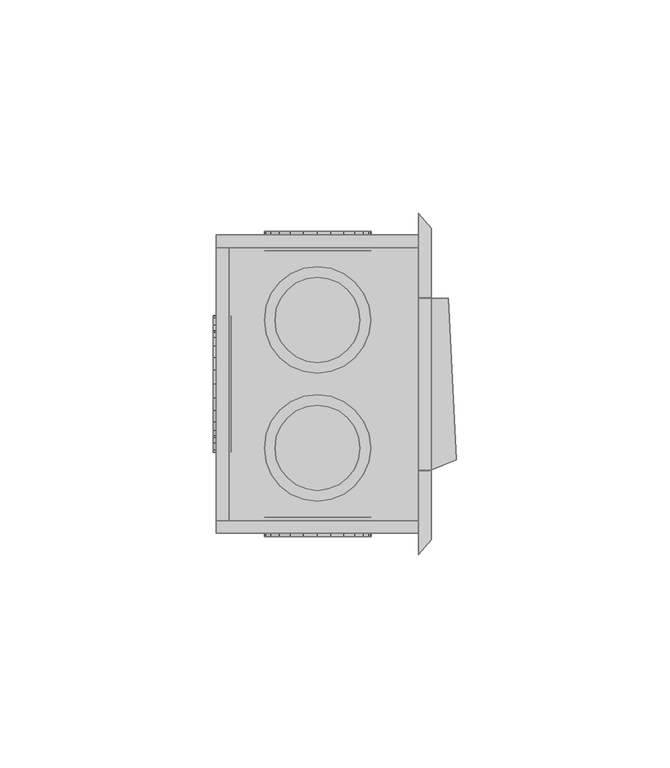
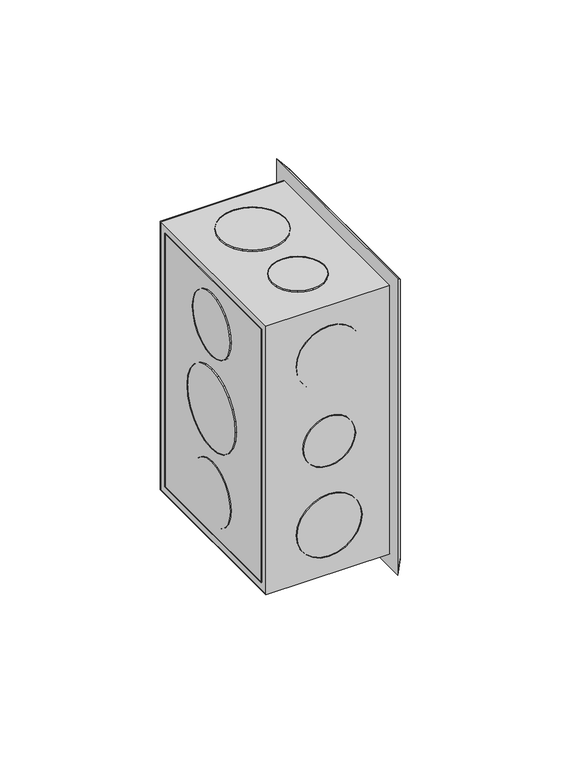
"""IFC4 building model written with IfcOpenShell, lengths in millimetres: proxy geometry,  211037 :  211037."""

from ifc_helpers import new_model, si_unit, origin, place, context, project, spatial, triangles, source, transform, mapped, element, save


def generic_models_7b9690b5(model_context):
    return source(origin(), model_context, "Body", "Tessellation", [
        triangles([(6623.3997849, 13049.5999786, 1254.3000378), (6623.3997849, 13046.6001617, 1148.7000154), (6623.3997849, 13049.5999786, 1145.6999805), (6623.3997849, 13046.6001617, 1251.2999302), (6623.3997849, 12979.5996002, 1254.3000378), (6623.3997849, 12982.6005798, 1251.2999302), (6623.3997849, 12979.5996002, 1145.6999805), (6623.3997849, 12982.6005798, 1148.7000154), (6575.8997772, 13046.6001617, 1251.2999302), (6575.8997772, 13046.6001617, 1148.7000154), (6575.8997772, 12979.5996002, 1254.3000378), (6575.8997772, 12979.5996002, 1145.6999805), (6575.8997772, 12982.6005798, 1251.2999302), (6575.8997772, 13049.5999786, 1145.6999805), (6575.8997772, 12982.6005798, 1148.7000154), (6575.8997772, 13049.5999786, 1254.3000378), (6578.9001755, 13046.6001617, 1251.2999302), (6578.9001755, 12982.6005798, 1148.7000154), (6578.9001755, 13046.6001617, 1148.7000154), (6578.9001755, 12982.6005798, 1251.2999302), (6579.400145, 13028.5001038, 1191.9999887), (6579.400145, 13022.6004639, 1186.0999855), (6579.400145, 13025.9002625, 1188.6999722), (6579.400145, 13030.1000061, 1195.8999687), (6579.400145, 13018.7995331, 1184.5000105), (6579.400145, 13030.5999756, 1200.0000092), (6579.400145, 13014.5997894, 1183.9999683), (6579.400145, 13030.1000061, 1204.0999769), (6579.400145, 13010.5000397, 1184.5000105), (6579.400145, 13028.5001038, 1208.0000296), (6579.400145, 13006.6002777, 1186.0999855), (6579.400145, 13025.9002625, 1211.2999735), (6579.400145, 13003.3004791, 1188.6999722), (6579.400145, 13022.6004639, 1213.9000328), (6579.400145, 13000.799469, 1191.9999887), (6579.400145, 13018.7995331, 1215.5000078), (6579.400145, 12999.1995667, 1195.8999687), (6579.400145, 13014.5997894, 1215.9999773), (6579.400145, 12998.5996033, 1200.0000092), (6579.400145, 13010.5000397, 1215.5000078), (6579.400145, 12999.1995667, 1204.0999769), (6579.400145, 13006.6002777, 1213.9000328), (6579.400145, 13000.799469, 1208.0000296), (6579.400145, 13003.3004791, 1211.2999735), (6575.1998199, 13010.5000397, 1184.5000105), (6575.1998199, 13014.5997894, 1183.9999683), (6575.1998199, 13018.7995331, 1184.5000105), (6575.1998199, 13022.6004639, 1186.0999855), (6575.1998199, 13025.9002625, 1188.6999722), (6575.1998199, 13028.5001038, 1191.9999887), (6575.1998199, 13030.1000061, 1195.8999687), (6575.1998199, 13030.5999756, 1200.0000092), (6575.1998199, 13030.1000061, 1204.0999769), (6575.1998199, 13028.5001038, 1208.0000296), (6575.1998199, 13025.9002625, 1211.2999735), (6575.1998199, 13022.6004639, 1213.9000328), (6575.1998199, 13018.7995331, 1215.5000078), (6575.1998199, 13014.5997894, 1215.9999773), (6575.1998199, 13010.5000397, 1215.5000078), (6575.1998199, 13006.6002777, 1213.9000328), (6575.1998199, 13003.3004791, 1211.2999735), (6575.1998199, 13000.799469, 1208.0000296), (6575.1998199, 12999.1995667, 1204.0999769), (6575.1998199, 12998.5996033, 1200.0000092), (6575.1998199, 12999.1995667, 1195.8999687), (6575.1998199, 13000.799469, 1191.9999887), (6575.1998199, 13003.3004791, 1188.6999722), (6575.1998199, 13006.6002777, 1186.0999855), (6579.400145, 13025.5002869, 1227.8000565), (6579.400145, 13020.9005676, 1223.2000465), (6579.400145, 13023.5004089, 1225.2000698), (6579.400145, 13026.7002136, 1230.8000187), (6579.400145, 13017.899588, 1221.8999805), (6579.400145, 13027.1001892, 1233.9999687), (6579.400145, 13014.5997894, 1221.500005), (6579.400145, 13026.7002136, 1237.2000641), (6579.400145, 13011.3999847, 1221.8999805), (6579.400145, 13025.5002869, 1240.3000202), (6579.400145, 13008.4001678, 1223.2000465), (6579.400145, 13023.5004089, 1242.800013), (6579.400145, 13005.8003265, 1225.2000698), (6579.400145, 13003.8004486, 1227.8000565), (6579.400145, 13020.9005676, 1244.8000362), (6579.400145, 13017.899588, 1246.0999569), (6579.400145, 13002.6005219, 1230.8000187), (6579.400145, 13014.5997894, 1246.4999325), (6579.400145, 13002.1005524, 1233.9999687), (6579.400145, 13011.3999847, 1246.0999569), (6579.400145, 13002.6005219, 1237.2000641), (6579.400145, 13003.8004486, 1240.3000202), (6579.400145, 13008.4001678, 1244.8000362), (6579.400145, 13005.8003265, 1242.800013), (6575.1998199, 13002.6005219, 1230.8000187), (6575.1998199, 13003.8004486, 1227.8000565), (6575.1998199, 13005.8003265, 1225.2000698), (6575.1998199, 13008.4001678, 1223.2000465), (6575.1998199, 13011.3999847, 1221.8999805), (6575.1998199, 13014.5997894, 1221.500005), (6575.1998199, 13017.899588, 1221.8999805), (6575.1998199, 13020.9005676, 1223.2000465), (6575.1998199, 13023.5004089, 1225.2000698), (6575.1998199, 13025.5002869, 1227.8000565), (6575.1998199, 13026.7002136, 1230.8000187), (6575.1998199, 13027.1001892, 1233.9999687), (6575.1998199, 13026.7002136, 1237.2000641), (6575.1998199, 13025.5002869, 1240.3000202), (6575.1998199, 13023.5004089, 1242.800013), (6575.1998199, 13020.9005676, 1244.8000362), (6575.1998199, 13017.899588, 1246.0999569), (6575.1998199, 13014.5997894, 1246.4999325), (6575.1998199, 13011.3999847, 1246.0999569), (6575.1998199, 13008.4001678, 1244.8000362), (6575.1998199, 13005.8003265, 1242.800013), (6575.1998199, 13003.8004486, 1240.3000202), (6575.1998199, 13002.6005219, 1237.2000641), (6575.1998199, 13002.1005524, 1233.9999687), (6575.1998199, 13020.9005676, 1155.1999821), (6575.1998199, 13025.5002869, 1159.6999981), (6575.1998199, 13023.5004089, 1157.2000053), (6575.1998199, 13017.899588, 1153.8999887), (6575.1998199, 13026.7002136, 1162.8000269), (6575.1998199, 13014.5997894, 1153.5000132), (6575.1998199, 13027.1001892, 1165.9999769), (6575.1998199, 13011.3999847, 1153.8999887), (6575.1998199, 13026.7002136, 1169.1999996), (6575.1998199, 13008.4001678, 1155.1999821), (6575.1998199, 13025.5002869, 1172.2000345), (6575.1998199, 13005.8003265, 1157.2000053), (6575.1998199, 13023.5004089, 1174.8000212), (6575.1998199, 13003.8004486, 1159.6999981), (6575.1998199, 13020.9005676, 1176.7999718), (6575.1998199, 13002.6005219, 1162.8000269), (6575.1998199, 13017.899588, 1178.0999651), (6575.1998199, 13014.5997894, 1178.5000134), (6575.1998199, 13002.1005524, 1165.9999769), (6575.1998199, 13002.6005219, 1169.1999996), (6575.1998199, 13011.3999847, 1178.0999651), (6575.1998199, 13003.8004486, 1172.2000345), (6575.1998199, 13008.4001678, 1176.7999718), (6575.1998199, 13005.8003265, 1174.8000212), (6579.400145, 13017.899588, 1178.0999651), (6579.400145, 13014.5997894, 1178.5000134), (6579.400145, 13020.9005676, 1176.7999718), (6579.400145, 13023.5004089, 1174.8000212), (6579.400145, 13025.5002869, 1172.2000345), (6579.400145, 13026.7002136, 1169.1999996), (6579.400145, 13027.1001892, 1165.9999769), (6579.400145, 13026.7002136, 1162.8000269), (6579.400145, 13025.5002869, 1159.6999981), (6579.400145, 13023.5004089, 1157.2000053), (6579.400145, 13020.9005676, 1155.1999821), (6579.400145, 13017.899588, 1153.8999887), (6579.400145, 13014.5997894, 1153.5000132), (6579.400145, 13011.3999847, 1153.8999887), (6579.400145, 13008.4001678, 1155.1999821), (6579.400145, 13005.8003265, 1157.2000053), (6579.400145, 13003.8004486, 1159.6999981), (6579.400145, 13002.6005219, 1162.8000269), (6579.400145, 13002.1005524, 1165.9999769), (6579.400145, 13002.6005219, 1169.1999996), (6579.400145, 13003.8004486, 1172.2000345), (6579.400145, 13005.8003265, 1174.8000212), (6579.400145, 13008.4001678, 1176.7999718), (6579.400145, 13011.3999847, 1178.0999651), (6594.6997925, 13045.8002106, 1191.3000315), (6591.0000183, 13045.8002106, 1195.0000237), (6592.5999207, 13045.8002106, 1192.9000065), (6590.0000793, 13045.8002106, 1197.4000225), (6597.1002274, 13045.8002106, 1190.3000198), (6589.7000977, 13045.8002106, 1200.0000092), (6599.7000687, 13045.8002106, 1189.9999655), (6602.1999161, 13045.8002106, 1190.3000198), (6590.0000793, 13045.8002106, 1202.5999958), (6591.0000183, 13045.8002106, 1204.9999947), (6604.6997635, 13045.8002106, 1191.3000315), (6592.5999207, 13045.8002106, 1207.1000118), (6606.7002228, 13045.8002106, 1192.9000065), (6608.3001251, 13045.8002106, 1195.0000237), (6594.6997925, 13045.8002106, 1208.6999868), (6609.3000641, 13045.8002106, 1197.4000225), (6597.1002274, 13045.8002106, 1209.6999985), (6609.7000397, 13045.8002106, 1200.0000092), (6599.7000687, 13045.8002106, 1209.9999802), (6609.3000641, 13045.8002106, 1202.5999958), (6602.1999161, 13045.8002106, 1209.6999985), (6604.6997635, 13045.8002106, 1208.6999868), (6608.3001251, 13045.8002106, 1204.9999947), (6606.7002228, 13045.8002106, 1207.1000118), (6599.7000687, 13050.3999298, 1189.9999655), (6597.1002274, 13050.3999298, 1190.3000198), (6602.1999161, 13050.3999298, 1190.3000198), (6604.6997635, 13050.3999298, 1191.3000315), (6606.7002228, 13050.3999298, 1192.9000065), (6608.3001251, 13050.3999298, 1195.0000237), (6609.3000641, 13050.3999298, 1197.4000225), (6609.7000397, 13050.3999298, 1200.0000092), (6609.3000641, 13050.3999298, 1202.5999958), (6608.3001251, 13050.3999298, 1204.9999947), (6606.7002228, 13050.3999298, 1207.1000118), (6604.6997635, 13050.3999298, 1208.6999868), (6602.1999161, 13050.3999298, 1209.6999985), (6599.7000687, 13050.3999298, 1209.9999802), (6597.1002274, 13050.3999298, 1209.6999985), (6594.6997925, 13050.3999298, 1208.6999868), (6592.5999207, 13050.3999298, 1207.1000118), (6591.0000183, 13050.3999298, 1204.9999947), (6590.0000793, 13050.3999298, 1202.5999958), (6589.7000977, 13050.3999298, 1200.0000092), (6590.0000793, 13050.3999298, 1197.4000225), (6591.0000183, 13050.3999298, 1195.0000237), (6592.5999207, 13050.3999298, 1192.9000065), (6594.6997925, 13050.3999298, 1191.3000315), (6593.3998718, 13045.8002106, 1223.2000465), (6588.8001526, 13045.8002106, 1227.8000565), (6590.8000305, 13045.8002106, 1225.2000698), (6596.4002701, 13045.8002106, 1221.8999805), (6587.6002258, 13045.8002106, 1230.8000187), (6587.2002502, 13045.8002106, 1233.9999687), (6599.7000687, 13045.8002106, 1221.500005), (6602.8998734, 13045.8002106, 1221.8999805), (6587.6002258, 13045.8002106, 1237.2000641), (6588.8001526, 13045.8002106, 1240.3000202), (6605.9002716, 13045.8002106, 1223.2000465), (6608.5001129, 13045.8002106, 1225.2000698), (6590.8000305, 13045.8002106, 1242.800013), (6610.4999908, 13045.8002106, 1227.8000565), (6593.3998718, 13045.8002106, 1244.8000362), (6611.6999176, 13045.8002106, 1230.8000187), (6596.4002701, 13045.8002106, 1246.0999569), (6612.1998871, 13045.8002106, 1233.9999687), (6599.7000687, 13045.8002106, 1246.4999325), (6611.6999176, 13045.8002106, 1237.2000641), (6602.8998734, 13045.8002106, 1246.0999569), (6610.4999908, 13045.8002106, 1240.3000202), (6605.9002716, 13045.8002106, 1244.8000362), (6608.5001129, 13045.8002106, 1242.800013), (6599.7000687, 13050.3999298, 1221.500005), (6596.4002701, 13050.3999298, 1221.8999805), (6602.8998734, 13050.3999298, 1221.8999805), (6605.9002716, 13050.3999298, 1223.2000465), (6608.5001129, 13050.3999298, 1225.2000698), (6610.4999908, 13050.3999298, 1227.8000565), (6611.6999176, 13050.3999298, 1230.8000187), (6612.1998871, 13050.3999298, 1233.9999687), (6611.6999176, 13050.3999298, 1237.2000641), (6610.4999908, 13050.3999298, 1240.3000202), (6608.5001129, 13050.3999298, 1242.800013), (6605.9002716, 13050.3999298, 1244.8000362), (6602.8998734, 13050.3999298, 1246.0999569), (6599.7000687, 13050.3999298, 1246.4999325), (6596.4002701, 13050.3999298, 1246.0999569), (6593.3998718, 13050.3999298, 1244.8000362), (6590.8000305, 13050.3999298, 1242.800013), (6588.8001526, 13050.3999298, 1240.3000202), (6587.6002258, 13050.3999298, 1237.2000641), (6587.2002502, 13050.3999298, 1233.9999687), (6587.6002258, 13050.3999298, 1230.8000187), (6588.8001526, 13050.3999298, 1227.8000565), (6590.8000305, 13050.3999298, 1225.2000698), (6593.3998718, 13050.3999298, 1223.2000465), (6588.8001526, 13050.3999298, 1159.6999981), (6593.3998718, 13050.3999298, 1155.1999821), (6590.8000305, 13050.3999298, 1157.2000053), (6587.6002258, 13050.3999298, 1162.8000269), (6596.4002701, 13050.3999298, 1153.8999887), (6587.2002502, 13050.3999298, 1165.9999769), (6599.7000687, 13050.3999298, 1153.5000132), (6587.6002258, 13050.3999298, 1169.1999996), (6602.8998734, 13050.3999298, 1153.8999887), (6588.8001526, 13050.3999298, 1172.2000345), (6605.9002716, 13050.3999298, 1155.1999821), (6590.8000305, 13050.3999298, 1174.8000212), (6608.5001129, 13050.3999298, 1157.2000053), (6593.3998718, 13050.3999298, 1176.7999718), (6610.4999908, 13050.3999298, 1159.6999981), (6596.4002701, 13050.3999298, 1178.0999651), (6611.6999176, 13050.3999298, 1162.8000269), (6599.7000687, 13050.3999298, 1178.5000134), (6612.1998871, 13050.3999298, 1165.9999769), (6602.8998734, 13050.3999298, 1178.0999651), (6611.6999176, 13050.3999298, 1169.1999996), (6605.9002716, 13050.3999298, 1176.7999718), (6610.4999908, 13050.3999298, 1172.2000345), (6608.5001129, 13050.3999298, 1174.8000212), (6596.4002701, 13045.8002106, 1178.0999651), (6599.7000687, 13045.8002106, 1178.5000134), (6602.8998734, 13045.8002106, 1178.0999651), (6605.9002716, 13045.8002106, 1176.7999718), (6608.5001129, 13045.8002106, 1174.8000212), (6610.4999908, 13045.8002106, 1172.2000345), (6611.6999176, 13045.8002106, 1169.1999996), (6612.1998871, 13045.8002106, 1165.9999769), (6611.6999176, 13045.8002106, 1162.8000269), (6610.4999908, 13045.8002106, 1159.6999981), (6608.5001129, 13045.8002106, 1157.2000053), (6605.9002716, 13045.8002106, 1155.1999821), (6602.8998734, 13045.8002106, 1153.8999887), (6599.7000687, 13045.8002106, 1153.5000132), (6596.4002701, 13045.8002106, 1153.8999887), (6593.3998718, 13045.8002106, 1155.1999821), (6590.8000305, 13045.8002106, 1157.2000053), (6588.8001526, 13045.8002106, 1159.6999981), (6587.6002258, 13045.8002106, 1162.8000269), (6587.2002502, 13045.8002106, 1165.9999769), (6587.6002258, 13045.8002106, 1169.1999996), (6588.8001526, 13045.8002106, 1172.2000345), (6590.8000305, 13045.8002106, 1174.8000212), (6593.3998718, 13045.8002106, 1176.7999718), (6591.0000183, 12983.400531, 1195.0000237), (6594.6997925, 12983.400531, 1191.3000315), (6592.5999207, 12983.400531, 1192.9000065), (6590.0000793, 12983.400531, 1197.4000225), (6597.1002274, 12983.400531, 1190.3000198), (6589.7000977, 12983.400531, 1200.0000092), (6599.7000687, 12983.400531, 1189.9999655), (6590.0000793, 12983.400531, 1202.5999958), (6602.1999161, 12983.400531, 1190.3000198), (6591.0000183, 12983.400531, 1204.9999947), (6604.6997635, 12983.400531, 1191.3000315), (6592.5999207, 12983.400531, 1207.1000118), (6606.7002228, 12983.400531, 1192.9000065), (6594.6997925, 12983.400531, 1208.6999868), (6608.3001251, 12983.400531, 1195.0000237), (6597.1002274, 12983.400531, 1209.6999985), (6609.3000641, 12983.400531, 1197.4000225), (6609.7000397, 12983.400531, 1200.0000092), (6599.7000687, 12983.400531, 1209.9999802), (6602.1999161, 12983.400531, 1209.6999985), (6609.3000641, 12983.400531, 1202.5999958), (6604.6997635, 12983.400531, 1208.6999868), (6608.3001251, 12983.400531, 1204.9999947), (6606.7002228, 12983.400531, 1207.1000118), (6597.1002274, 12978.799649, 1209.6999985), (6599.7000687, 12978.799649, 1209.9999802), (6602.1999161, 12978.799649, 1209.6999985), (6604.6997635, 12978.799649, 1208.6999868), (6606.7002228, 12978.799649, 1207.1000118), (6608.3001251, 12978.799649, 1204.9999947), (6609.3000641, 12978.799649, 1202.5999958), (6609.7000397, 12978.799649, 1200.0000092), (6609.3000641, 12978.799649, 1197.4000225), (6608.3001251, 12978.799649, 1195.0000237), (6606.7002228, 12978.799649, 1192.9000065), (6604.6997635, 12978.799649, 1191.3000315), (6602.1999161, 12978.799649, 1190.3000198), (6599.7000687, 12978.799649, 1189.9999655), (6597.1002274, 12978.799649, 1190.3000198), (6594.6997925, 12978.799649, 1191.3000315), (6592.5999207, 12978.799649, 1192.9000065), (6591.0000183, 12978.799649, 1195.0000237), (6590.0000793, 12978.799649, 1197.4000225), (6589.7000977, 12978.799649, 1200.0000092), (6590.0000793, 12978.799649, 1202.5999958), (6591.0000183, 12978.799649, 1204.9999947), (6592.5999207, 12978.799649, 1207.1000118), (6594.6997925, 12978.799649, 1208.6999868), (6588.8001526, 12983.400531, 1159.6999981), (6593.3998718, 12983.400531, 1155.1999821), (6590.8000305, 12983.400531, 1157.2000053), (6587.6002258, 12983.400531, 1162.8000269), (6596.4002701, 12983.400531, 1153.8999887), (6587.2002502, 12983.400531, 1165.9999769), (6599.7000687, 12983.400531, 1153.5000132), (6587.6002258, 12983.400531, 1169.1999996), (6602.8998734, 12983.400531, 1153.8999887), (6588.8001526, 12983.400531, 1172.2000345), (6605.9002716, 12983.400531, 1155.1999821), (6590.8000305, 12983.400531, 1174.8000212), (6608.5001129, 12983.400531, 1157.2000053), (6593.3998718, 12983.400531, 1176.7999718), (6610.4999908, 12983.400531, 1159.6999981), (6596.4002701, 12983.400531, 1178.0999651), (6611.6999176, 12983.400531, 1162.8000269), (6599.7000687, 12983.400531, 1178.5000134), (6612.1998871, 12983.400531, 1165.9999769), (6602.8998734, 12983.400531, 1178.0999651), (6611.6999176, 12983.400531, 1169.1999996), (6605.9002716, 12983.400531, 1176.7999718), (6610.4999908, 12983.400531, 1172.2000345), (6608.5001129, 12983.400531, 1174.8000212), (6596.4002701, 12978.799649, 1178.0999651), (6599.7000687, 12978.799649, 1178.5000134), (6602.8998734, 12978.799649, 1178.0999651), (6605.9002716, 12978.799649, 1176.7999718), (6608.5001129, 12978.799649, 1174.8000212), (6610.4999908, 12978.799649, 1172.2000345), (6611.6999176, 12978.799649, 1169.1999996), (6612.1998871, 12978.799649, 1165.9999769), (6611.6999176, 12978.799649, 1162.8000269), (6610.4999908, 12978.799649, 1159.6999981), (6608.5001129, 12978.799649, 1157.2000053), (6605.9002716, 12978.799649, 1155.1999821), (6602.8998734, 12978.799649, 1153.8999887), (6599.7000687, 12978.799649, 1153.5000132), (6596.4002701, 12978.799649, 1153.8999887), (6593.3998718, 12978.799649, 1155.1999821), (6590.8000305, 12978.799649, 1157.2000053), (6588.8001526, 12978.799649, 1159.6999981), (6587.6002258, 12978.799649, 1162.8000269), (6587.2002502, 12978.799649, 1165.9999769), (6587.6002258, 12978.799649, 1169.1999996), (6588.8001526, 12978.799649, 1172.2000345), (6590.8000305, 12978.799649, 1174.8000212), (6593.3998718, 12978.799649, 1176.7999718), (6593.3998718, 12978.799649, 1223.2000465), (6588.8001526, 12978.799649, 1227.8000565), (6590.8000305, 12978.799649, 1225.2000698), (6596.4002701, 12978.799649, 1221.8999805), (6587.6002258, 12978.799649, 1230.8000187), (6587.2002502, 12978.799649, 1233.9999687), (6599.7000687, 12978.799649, 1221.500005), (6602.8998734, 12978.799649, 1221.8999805), (6587.6002258, 12978.799649, 1237.2000641), (6588.8001526, 12978.799649, 1240.3000202), (6605.9002716, 12978.799649, 1223.2000465), (6608.5001129, 12978.799649, 1225.2000698), (6590.8000305, 12978.799649, 1242.800013), (6610.4999908, 12978.799649, 1227.8000565), (6593.3998718, 12978.799649, 1244.8000362), (6611.6999176, 12978.799649, 1230.8000187), (6596.4002701, 12978.799649, 1246.0999569), (6612.1998871, 12978.799649, 1233.9999687), (6599.7000687, 12978.799649, 1246.4999325), (6611.6999176, 12978.799649, 1237.2000641), (6602.8998734, 12978.799649, 1246.0999569), (6610.4999908, 12978.799649, 1240.3000202), (6605.9002716, 12978.799649, 1244.8000362), (6608.5001129, 12978.799649, 1242.800013), (6599.7000687, 12983.400531, 1221.500005), (6596.4002701, 12983.400531, 1221.8999805), (6602.8998734, 12983.400531, 1221.8999805), (6605.9002716, 12983.400531, 1223.2000465), (6608.5001129, 12983.400531, 1225.2000698), (6610.4999908, 12983.400531, 1227.8000565), (6611.6999176, 12983.400531, 1230.8000187), (6612.1998871, 12983.400531, 1233.9999687), (6611.6999176, 12983.400531, 1237.2000641), (6610.4999908, 12983.400531, 1240.3000202), (6608.5001129, 12983.400531, 1242.800013), (6605.9002716, 12983.400531, 1244.8000362), (6602.8998734, 12983.400531, 1246.0999569), (6599.7000687, 12983.400531, 1246.4999325), (6596.4002701, 12983.400531, 1246.0999569), (6593.3998718, 12983.400531, 1244.8000362), (6590.8000305, 12983.400531, 1242.800013), (6588.8001526, 12983.400531, 1240.3000202), (6587.6002258, 12983.400531, 1237.2000641), (6587.2002502, 12983.400531, 1233.9999687), (6587.6002258, 12983.400531, 1230.8000187), (6588.8001526, 12983.400531, 1227.8000565), (6590.8000305, 12983.400531, 1225.2000698), (6593.3998718, 12983.400531, 1223.2000465), (6593.3998718, 13040.5005341, 1250.9999485), (6588.8001526, 13035.8996521, 1250.9999485), (6590.8000305, 13038.4994934, 1250.9999485), (6596.4002701, 13041.7004608, 1250.9999485), (6587.6002258, 13032.8998352, 1250.9999485), (6587.2002502, 13029.6000366, 1250.9999485), (6599.7000687, 13042.1004364, 1250.9999485), (6602.8998734, 13041.7004608, 1250.9999485), (6587.6002258, 13026.4002319, 1250.9999485), (6588.8001526, 13023.400415, 1250.9999485), (6605.9002716, 13040.5005341, 1250.9999485), (6608.5001129, 13038.4994934, 1250.9999485), (6590.8000305, 13020.8005737, 1250.9999485), (6593.3998718, 13018.7995331, 1250.9999485), (6610.4999908, 13035.8996521, 1250.9999485), (6611.6999176, 13032.8998352, 1250.9999485), (6596.4002701, 13017.5996063, 1250.9999485), (6612.1998871, 13029.6000366, 1250.9999485), (6599.7000687, 13017.0996368, 1250.9999485), (6611.6999176, 13026.4002319, 1250.9999485), (6602.8998734, 13017.5996063, 1250.9999485), (6605.9002716, 13018.7995331, 1250.9999485), (6610.4999908, 13023.400415, 1250.9999485), (6608.5001129, 13020.8005737, 1250.9999485), (6587.2002502, 13029.6000366, 1255.1999828), (6587.6002258, 13026.4002319, 1255.1999828), (6587.6002258, 13032.8998352, 1255.1999828), (6588.8001526, 13035.8996521, 1255.1999828), (6590.8000305, 13038.4994934, 1255.1999828), (6593.3998718, 13040.5005341, 1255.1999828), (6596.4002701, 13041.7004608, 1255.1999828), (6599.7000687, 13042.1004364, 1255.1999828), (6602.8998734, 13041.7004608, 1255.1999828), (6605.9002716, 13040.5005341, 1255.1999828), (6608.5001129, 13038.4994934, 1255.1999828), (6610.4999908, 13035.8996521, 1255.1999828), (6611.6999176, 13032.8998352, 1255.1999828), (6612.1998871, 13029.6000366, 1255.1999828), (6611.6999176, 13026.4002319, 1255.1999828), (6610.4999908, 13023.400415, 1255.1999828), (6608.5001129, 13020.8005737, 1255.1999828), (6605.9002716, 13018.7995331, 1255.1999828), (6602.8998734, 13017.5996063, 1255.1999828), (6599.7000687, 13017.0996368, 1255.1999828), (6596.4002701, 13017.5996063, 1255.1999828), (6593.3998718, 13018.7995331, 1255.1999828), (6590.8000305, 13020.8005737, 1255.1999828), (6588.8001526, 13023.400415, 1255.1999828), (6594.6997925, 13008.300174, 1250.9999485), (6591.0000183, 13004.6003998, 1250.9999485), (6592.5999207, 13006.7002716, 1250.9999485), (6590.0000793, 13002.2005463, 1250.9999485), (6597.1002274, 13009.3001129, 1250.9999485), (6589.7000977, 12999.5995422, 1250.9999485), (6599.7000687, 13009.6000946, 1250.9999485), (6602.1999161, 13009.3001129, 1250.9999485), (6590.0000793, 12996.9997009, 1250.9999485), (6591.0000183, 12994.5998474, 1250.9999485), (6604.6997635, 13008.300174, 1250.9999485), (6592.5999207, 12992.5999695, 1250.9999485), (6606.7002228, 13006.7002716, 1250.9999485), (6608.3001251, 13004.6003998, 1250.9999485), (6594.6997925, 12991.0000671, 1250.9999485), (6597.1002274, 12990.0001282, 1250.9999485), (6609.3000641, 13002.2005463, 1250.9999485), (6609.7000397, 12999.5995422, 1250.9999485), (6599.7000687, 12989.6001526, 1250.9999485), (6609.3000641, 12996.9997009, 1250.9999485), (6602.1999161, 12990.0001282, 1250.9999485), (6608.3001251, 12994.5998474, 1250.9999485), (6604.6997635, 12991.0000671, 1250.9999485), (6606.7002228, 12992.5999695, 1250.9999485), (6590.0000793, 12996.9997009, 1255.1999828), (6591.0000183, 12994.5998474, 1255.1999828), (6589.7000977, 12999.5995422, 1255.1999828), (6590.0000793, 13002.2005463, 1255.1999828), (6591.0000183, 13004.6003998, 1255.1999828), (6592.5999207, 13006.7002716, 1255.1999828), (6594.6997925, 13008.300174, 1255.1999828), (6597.1002274, 13009.3001129, 1255.1999828), (6599.7000687, 13009.6000946, 1255.1999828), (6602.1999161, 13009.3001129, 1255.1999828), (6604.6997635, 13008.300174, 1255.1999828), (6606.7002228, 13006.7002716, 1255.1999828), (6608.3001251, 13004.6003998, 1255.1999828), (6609.3000641, 13002.2005463, 1255.1999828), (6609.7000397, 12999.5995422, 1255.1999828), (6609.3000641, 12996.9997009, 1255.1999828), (6608.3001251, 12994.5998474, 1255.1999828), (6606.7002228, 12992.5999695, 1255.1999828), (6604.6997635, 12991.0000671, 1255.1999828), (6602.1999161, 12990.0001282, 1255.1999828), (6599.7000687, 12989.6001526, 1255.1999828), (6597.1002274, 12990.0001282, 1255.1999828), (6594.6997925, 12991.0000671, 1255.1999828), (6592.5999207, 12992.5999695, 1255.1999828), (6594.6997925, 13038.2995056, 1144.8000355), (6591.0000183, 13034.5997314, 1144.8000355), (6592.5999207, 13036.6996033, 1144.8000355), (6590.0000793, 13032.1998779, 1144.8000355), (6597.1002274, 13039.2994446, 1144.8000355), (6589.7000977, 13029.6000366, 1144.8000355), (6599.7000687, 13039.5994263, 1144.8000355), (6602.1999161, 13039.2994446, 1144.8000355), (6590.0000793, 13027.0001953, 1144.8000355), (6591.0000183, 13024.6003418, 1144.8000355), (6604.6997635, 13038.2995056, 1144.8000355), (6592.5999207, 13022.6004639, 1144.8000355), (6606.7002228, 13036.6996033, 1144.8000355), (6608.3001251, 13034.5997314, 1144.8000355), (6594.6997925, 13021.0005615, 1144.8000355), (6597.1002274, 13019.9994598, 1144.8000355), (6609.3000641, 13032.1998779, 1144.8000355), (6609.7000397, 13029.6000366, 1144.8000355), (6599.7000687, 13019.5994843, 1144.8000355), (6609.3000641, 13027.0001953, 1144.8000355), (6602.1999161, 13019.9994598, 1144.8000355), (6608.3001251, 13024.6003418, 1144.8000355), (6604.6997635, 13021.0005615, 1144.8000355), (6606.7002228, 13022.6004639, 1144.8000355), (6590.0000793, 13032.1998779, 1149.099991), (6589.7000977, 13029.6000366, 1149.099991), (6591.0000183, 13034.5997314, 1149.099991), (6592.5999207, 13036.6996033, 1149.099991), (6594.6997925, 13038.2995056, 1149.099991), (6597.1002274, 13039.2994446, 1149.099991), (6599.7000687, 13039.5994263, 1149.099991), (6602.1999161, 13039.2994446, 1149.099991), (6604.6997635, 13038.2995056, 1149.099991), (6606.7002228, 13036.6996033, 1149.099991), (6608.3001251, 13034.5997314, 1149.099991), (6609.3000641, 13032.1998779, 1149.099991), (6609.7000397, 13029.6000366, 1149.099991), (6609.3000641, 13027.0001953, 1149.099991), (6608.3001251, 13024.6003418, 1149.099991), (6606.7002228, 13022.6004639, 1149.099991), (6604.6997635, 13021.0005615, 1149.099991), (6602.1999161, 13019.9994598, 1149.099991), (6599.7000687, 13019.5994843, 1149.099991), (6597.1002274, 13019.9994598, 1149.099991), (6594.6997925, 13021.0005615, 1149.099991), (6592.5999207, 13022.6004639, 1149.099991), (6591.0000183, 13024.6003418, 1149.099991), (6590.0000793, 13027.0001953, 1149.099991), (6593.3998718, 13010.5000397, 1144.8000355), (6588.8001526, 13005.9003204, 1144.8000355), (6590.8000305, 13008.5001617, 1144.8000355), (6596.4002701, 13011.6999664, 1144.8000355), (6587.6002258, 13002.9005035, 1144.8000355), (6587.2002502, 12999.5995422, 1144.8000355), (6599.7000687, 13012.099942, 1144.8000355), (6602.8998734, 13011.6999664, 1144.8000355), (6587.6002258, 12996.3997375, 1144.8000355), (6588.8001526, 12993.3999207, 1144.8000355), (6605.9002716, 13010.5000397, 1144.8000355), (6608.5001129, 13008.5001617, 1144.8000355), (6590.8000305, 12990.8000793, 1144.8000355), (6593.3998718, 12988.8002014, 1144.8000355), (6610.4999908, 13005.9003204, 1144.8000355), (6611.6999176, 13002.9005035, 1144.8000355), (6596.4002701, 12987.6002747, 1144.8000355), (6612.1998871, 12999.5995422, 1144.8000355), (6599.7000687, 12987.1003052, 1144.8000355), (6611.6999176, 12996.3997375, 1144.8000355), (6602.8998734, 12987.6002747, 1144.8000355), (6605.9002716, 12988.8002014, 1144.8000355), (6610.4999908, 12993.3999207, 1144.8000355), (6608.5001129, 12990.8000793, 1144.8000355), (6587.6002258, 12996.3997375, 1149.099991), (6588.8001526, 12993.3999207, 1149.099991), (6587.2002502, 12999.5995422, 1149.099991), (6587.6002258, 13002.9005035, 1149.099991), (6588.8001526, 13005.9003204, 1149.099991), (6590.8000305, 13008.5001617, 1149.099991), (6593.3998718, 13010.5000397, 1149.099991), (6596.4002701, 13011.6999664, 1149.099991), (6599.7000687, 13012.099942, 1149.099991), (6602.8998734, 13011.6999664, 1149.099991), (6605.9002716, 13010.5000397, 1149.099991), (6608.5001129, 13008.5001617, 1149.099991), (6610.4999908, 13005.9003204, 1149.099991), (6611.6999176, 13002.9005035, 1149.099991), (6612.1998871, 12999.5995422, 1149.099991), (6611.6999176, 12996.3997375, 1149.099991), (6610.4999908, 12993.3999207, 1149.099991), (6608.5001129, 12990.8000793, 1149.099991), (6605.9002716, 12988.8002014, 1149.099991), (6602.8998734, 12987.6002747, 1149.099991), (6599.7000687, 12987.1003052, 1149.099991), (6596.4002701, 12987.6002747, 1149.099991), (6593.3998718, 12988.8002014, 1149.099991), (6590.8000305, 12990.8000793, 1149.099991), (6623.3997849, 12974.5999054, 1139.9999651), (6623.3997849, 13034.7997192, 1188.2999966), (6623.3997849, 13054.5996735, 1139.9999651), (6623.3997849, 12994.3998596, 1188.2999966), (6623.3997849, 12974.5999054, 1259.9999805), (6623.3997849, 12994.3998596, 1211.7000217), (6623.3997849, 13054.5996735, 1259.9999805), (6623.3997849, 13034.7997192, 1211.7000217), (6626.4001831, 12994.3998596, 1188.2999966), (6626.4001831, 12994.3998596, 1211.7000217), (6626.4001831, 13034.7997192, 1188.2999966), (6626.4001831, 13034.7997192, 1211.7000217), (6626.4001831, 13051.0998871, 1143.4999695), (6626.4001831, 13051.0998871, 1256.5000488), (6626.4001831, 12978.0996918, 1143.4999695), (6626.4001831, 12978.0996918, 1256.5000488), (6630.399939, 13034.6997253, 1188.1000088), (6623.3997849, 12994.2998657, 1188.1000088), (6623.3997849, 13034.6997253, 1188.1000088), (6632.299823, 12996.899707, 1188.1000088), (6625.9002136, 12994.2998657, 1188.1000088), (6623.3997849, 13034.6997253, 1211.500034), (6623.3997849, 12994.2998657, 1211.500034), (6630.399939, 13034.6997253, 1211.500034), (6632.299823, 12996.899707, 1211.500034), (6625.9002136, 12994.2998657, 1211.500034)], [[1, 2, 3], [2, 1, 4], [5, 4, 1], [4, 5, 6], [3, 2, 7], [7, 2, 8], [7, 8, 6], [7, 6, 5], [2, 9, 10], [9, 2, 4], [7, 11, 12], [11, 7, 5], [4, 13, 9], [13, 4, 6], [3, 12, 14], [12, 3, 7], [13, 8, 15], [8, 13, 6], [16, 3, 14], [3, 16, 1], [15, 2, 10], [2, 15, 8], [11, 1, 16], [1, 11, 5], [12, 10, 14], [10, 12, 15], [11, 15, 12], [15, 11, 13], [14, 10, 16], [16, 10, 9], [16, 9, 13], [16, 13, 11], [17, 18, 19], [18, 17, 20], [18, 13, 15], [13, 18, 20], [19, 15, 10], [15, 19, 18], [9, 19, 10], [19, 9, 17], [13, 17, 9], [17, 13, 20], [15, 9, 10], [9, 15, 13], [21, 22, 23], [22, 21, 24], [25, 22, 24], [25, 24, 26], [27, 25, 26], [27, 26, 28], [29, 27, 28], [29, 28, 30], [31, 29, 30], [31, 30, 32], [31, 32, 33], [33, 32, 34], [33, 34, 35], [35, 34, 36], [35, 36, 37], [37, 36, 38], [37, 38, 39], [39, 38, 40], [39, 40, 41], [41, 40, 42], [41, 42, 43], [43, 42, 44], [27, 45, 46], [45, 27, 29], [25, 46, 47], [46, 25, 27], [22, 47, 48], [47, 22, 25], [23, 48, 49], [48, 23, 22], [50, 23, 49], [23, 50, 21], [51, 21, 50], [21, 51, 24], [52, 24, 51], [24, 52, 26], [53, 26, 52], [26, 53, 28], [54, 28, 53], [28, 54, 30], [55, 30, 54], [30, 55, 32], [56, 32, 55], [32, 56, 34], [57, 34, 56], [34, 57, 36], [58, 36, 57], [36, 58, 38], [59, 38, 58], [38, 59, 40], [60, 40, 59], [40, 60, 42], [61, 42, 60], [42, 61, 44], [43, 61, 62], [61, 43, 44], [41, 62, 63], [62, 41, 43], [39, 63, 64], [63, 39, 41], [37, 64, 65], [64, 37, 39], [35, 65, 66], [65, 35, 37], [33, 66, 67], [66, 33, 35], [31, 67, 68], [67, 31, 33], [29, 68, 45], [68, 29, 31], [48, 50, 49], [50, 48, 47], [51, 50, 47], [51, 47, 46], [52, 51, 46], [52, 46, 45], [53, 52, 45], [53, 45, 68], [54, 53, 68], [54, 68, 67], [54, 67, 55], [55, 67, 66], [55, 66, 56], [56, 66, 65], [56, 65, 57], [57, 65, 64], [57, 64, 58], [58, 64, 63], [58, 63, 59], [59, 63, 62], [59, 62, 60], [60, 62, 61], [69, 70, 71], [70, 69, 72], [73, 70, 72], [73, 72, 74], [75, 73, 74], [75, 74, 76], [77, 75, 76], [77, 76, 78], [79, 77, 78], [79, 78, 80], [81, 79, 80], [81, 80, 82], [82, 80, 83], [82, 83, 84], [82, 84, 85], [85, 84, 86], [85, 86, 87], [87, 86, 88], [87, 88, 89], [89, 88, 90], [90, 88, 91], [90, 91, 92], [82, 93, 94], [93, 82, 85], [81, 94, 95], [94, 81, 82], [79, 95, 96], [95, 79, 81], [77, 96, 97], [96, 77, 79], [75, 97, 98], [97, 75, 77], [73, 98, 99], [98, 73, 75], [70, 99, 100], [99, 70, 73], [71, 100, 101], [100, 71, 70], [102, 71, 101], [71, 102, 69], [103, 69, 102], [69, 103, 72], [104, 72, 103], [72, 104, 74], [105, 74, 104], [74, 105, 76], [106, 76, 105], [76, 106, 78], [107, 78, 106], [78, 107, 80], [108, 80, 107], [80, 108, 83], [109, 83, 108], [83, 109, 84], [110, 84, 109], [84, 110, 86], [111, 86, 110], [86, 111, 88], [112, 88, 111], [88, 112, 91], [113, 91, 112], [91, 113, 92], [90, 113, 114], [113, 90, 92], [89, 114, 115], [114, 89, 90], [87, 115, 116], [115, 87, 89], [85, 116, 93], [116, 85, 87], [100, 102, 101], [102, 100, 99], [103, 102, 99], [103, 99, 98], [104, 103, 98], [104, 98, 97], [105, 104, 97], [106, 105, 97], [106, 97, 96], [106, 96, 95], [106, 95, 107], [107, 95, 94], [107, 94, 108], [108, 94, 93], [108, 93, 109], [109, 93, 116], [109, 116, 110], [110, 116, 115], [110, 115, 111], [111, 115, 114], [111, 114, 112], [112, 114, 113], [117, 118, 119], [118, 117, 120], [121, 118, 120], [121, 120, 122], [123, 121, 122], [123, 122, 124], [125, 123, 124], [125, 124, 126], [127, 125, 126], [127, 126, 128], [127, 128, 129], [129, 128, 130], [129, 130, 131], [131, 130, 132], [131, 132, 133], [133, 132, 134], [134, 132, 135], [134, 135, 136], [134, 136, 137], [137, 136, 138], [137, 138, 139], [139, 138, 140], [134, 141, 133], [141, 134, 142], [133, 143, 131], [143, 133, 141], [131, 144, 129], [144, 131, 143], [129, 145, 127], [145, 129, 144], [127, 146, 125], [146, 127, 145], [125, 147, 123], [147, 125, 146], [123, 148, 121], [148, 123, 147], [121, 149, 118], [149, 121, 148], [118, 150, 119], [150, 118, 149], [150, 117, 119], [117, 150, 151], [151, 120, 117], [120, 151, 152], [152, 122, 120], [122, 152, 153], [153, 124, 122], [124, 153, 154], [154, 126, 124], [126, 154, 155], [155, 128, 126], [128, 155, 156], [156, 130, 128], [130, 156, 157], [157, 132, 130], [132, 157, 158], [158, 135, 132], [135, 158, 159], [159, 136, 135], [136, 159, 160], [160, 138, 136], [138, 160, 161], [161, 140, 138], [140, 161, 162], [140, 163, 139], [163, 140, 162], [139, 164, 137], [164, 139, 163], [137, 142, 134], [142, 137, 164], [149, 151, 150], [151, 149, 148], [152, 151, 148], [153, 152, 148], [153, 148, 147], [153, 147, 146], [154, 153, 146], [154, 146, 145], [155, 154, 145], [155, 145, 144], [156, 155, 144], [156, 144, 157], [157, 144, 143], [157, 143, 141], [157, 141, 158], [158, 141, 142], [158, 142, 159], [159, 142, 164], [159, 164, 160], [160, 164, 163], [160, 163, 161], [161, 163, 162], [165, 166, 167], [168, 166, 165], [168, 165, 169], [170, 168, 169], [170, 169, 171], [170, 171, 172], [173, 170, 172], [174, 173, 172], [174, 172, 175], [176, 174, 175], [176, 175, 177], [176, 177, 178], [176, 178, 179], [179, 178, 180], [179, 180, 181], [181, 180, 182], [181, 182, 183], [183, 182, 184], [183, 184, 185], [185, 184, 186], [186, 184, 187], [186, 187, 188], [189, 169, 190], [169, 189, 171], [191, 171, 189], [171, 191, 172], [192, 172, 191], [172, 192, 175], [193, 175, 192], [175, 193, 177], [194, 177, 193], [177, 194, 178], [195, 178, 194], [178, 195, 180], [196, 180, 195], [180, 196, 182], [197, 182, 196], [182, 197, 184], [198, 184, 197], [184, 198, 187], [199, 187, 198], [187, 199, 188], [186, 199, 200], [199, 186, 188], [185, 200, 201], [200, 185, 186], [183, 201, 202], [201, 183, 185], [181, 202, 203], [202, 181, 183], [179, 203, 204], [203, 179, 181], [176, 204, 205], [204, 176, 179], [174, 205, 206], [205, 174, 176], [173, 206, 207], [206, 173, 174], [170, 207, 208], [207, 170, 173], [168, 208, 209], [208, 168, 170], [166, 209, 210], [209, 166, 168], [167, 210, 211], [210, 167, 166], [212, 167, 211], [167, 212, 165], [190, 165, 212], [165, 190, 169], [210, 212, 211], [212, 210, 209], [190, 212, 209], [190, 209, 208], [189, 190, 208], [189, 208, 207], [191, 189, 207], [191, 207, 206], [192, 191, 206], [192, 206, 205], [192, 205, 193], [193, 205, 204], [193, 204, 194], [194, 204, 203], [194, 203, 195], [195, 203, 196], [196, 203, 202], [196, 202, 201], [196, 201, 197], [197, 201, 200], [197, 200, 198], [198, 200, 199], [213, 214, 215], [214, 213, 216], [217, 214, 216], [218, 217, 216], [218, 216, 219], [218, 219, 220], [221, 218, 220], [222, 221, 220], [222, 220, 223], [222, 223, 224], [222, 224, 225], [225, 224, 226], [225, 226, 227], [227, 226, 228], [227, 228, 229], [229, 228, 230], [229, 230, 231], [231, 230, 232], [231, 232, 233], [233, 232, 234], [233, 234, 235], [235, 234, 236], [237, 216, 238], [216, 237, 219], [239, 219, 237], [219, 239, 220], [240, 220, 239], [220, 240, 223], [241, 223, 240], [223, 241, 224], [242, 224, 241], [224, 242, 226], [243, 226, 242], [226, 243, 228], [244, 228, 243], [228, 244, 230], [245, 230, 244], [230, 245, 232], [246, 232, 245], [232, 246, 234], [247, 234, 246], [234, 247, 236], [235, 247, 248], [247, 235, 236], [233, 248, 249], [248, 233, 235], [231, 249, 250], [249, 231, 233], [229, 250, 251], [250, 229, 231], [227, 251, 252], [251, 227, 229], [225, 252, 253], [252, 225, 227], [222, 253, 254], [253, 222, 225], [221, 254, 255], [254, 221, 222], [218, 255, 256], [255, 218, 221], [217, 256, 257], [256, 217, 218], [214, 257, 258], [257, 214, 217], [215, 258, 259], [258, 215, 214], [260, 215, 259], [215, 260, 213], [238, 213, 260], [213, 238, 216], [258, 260, 259], [260, 258, 257], [238, 260, 257], [238, 257, 256], [237, 238, 256], [237, 256, 255], [239, 237, 255], [239, 255, 254], [240, 239, 254], [240, 254, 253], [241, 240, 253], [241, 253, 252], [241, 252, 242], [242, 252, 251], [242, 251, 243], [243, 251, 244], [244, 251, 250], [244, 250, 249], [244, 249, 245], [245, 249, 246], [246, 249, 248], [246, 248, 247], [261, 262, 263], [262, 261, 264], [265, 262, 264], [265, 264, 266], [267, 265, 266], [267, 266, 268], [269, 267, 268], [269, 268, 270], [271, 269, 270], [271, 270, 272], [273, 271, 272], [273, 272, 274], [273, 274, 275], [275, 274, 276], [275, 276, 277], [277, 276, 278], [277, 278, 279], [279, 278, 280], [279, 280, 281], [281, 280, 282], [281, 282, 283], [283, 282, 284], [285, 278, 276], [278, 285, 286], [286, 280, 278], [280, 286, 287], [287, 282, 280], [282, 287, 288], [288, 284, 282], [284, 288, 289], [284, 290, 283], [290, 284, 289], [283, 291, 281], [291, 283, 290], [281, 292, 279], [292, 281, 291], [279, 293, 277], [293, 279, 292], [277, 294, 275], [294, 277, 293], [275, 295, 273], [295, 275, 294], [273, 296, 271], [296, 273, 295], [271, 297, 269], [297, 271, 296], [269, 298, 267], [298, 269, 297], [267, 299, 265], [299, 267, 298], [265, 300, 262], [300, 265, 299], [262, 301, 263], [301, 262, 300], [301, 261, 263], [261, 301, 302], [302, 264, 261], [264, 302, 303], [303, 266, 264], [266, 303, 304], [304, 268, 266], [268, 304, 305], [305, 270, 268], [270, 305, 306], [306, 272, 270], [272, 306, 307], [307, 274, 272], [274, 307, 308], [308, 276, 274], [276, 308, 285], [300, 302, 301], [302, 300, 299], [303, 302, 299], [303, 299, 298], [304, 303, 298], [304, 298, 297], [305, 304, 297], [305, 297, 296], [306, 305, 296], [306, 296, 295], [306, 295, 307], [307, 295, 294], [307, 294, 308], [308, 294, 293], [308, 293, 285], [285, 293, 286], [286, 293, 292], [286, 292, 291], [286, 291, 287], [287, 291, 288], [288, 291, 290], [288, 290, 289], [309, 310, 311], [310, 309, 312], [313, 310, 312], [313, 312, 314], [315, 313, 314], [315, 314, 316], [317, 315, 316], [317, 316, 318], [319, 317, 318], [319, 318, 320], [319, 320, 321], [321, 320, 322], [321, 322, 323], [323, 322, 324], [323, 324, 325], [325, 324, 326], [326, 324, 327], [326, 327, 328], [326, 328, 329], [329, 328, 330], [329, 330, 331], [331, 330, 332], [333, 327, 324], [327, 333, 334], [334, 328, 327], [328, 334, 335], [335, 330, 328], [330, 335, 336], [336, 332, 330], [332, 336, 337], [332, 338, 331], [338, 332, 337], [331, 339, 329], [339, 331, 338], [329, 340, 326], [340, 329, 339], [326, 341, 325], [341, 326, 340], [325, 342, 323], [342, 325, 341], [323, 343, 321], [343, 323, 342], [321, 344, 319], [344, 321, 343], [319, 345, 317], [345, 319, 344], [317, 346, 315], [346, 317, 345], [315, 347, 313], [347, 315, 346], [313, 348, 310], [348, 313, 347], [310, 349, 311], [349, 310, 348], [349, 309, 311], [309, 349, 350], [350, 312, 309], [312, 350, 351], [351, 314, 312], [314, 351, 352], [352, 316, 314], [316, 352, 353], [353, 318, 316], [318, 353, 354], [354, 320, 318], [320, 354, 355], [355, 322, 320], [322, 355, 356], [356, 324, 322], [324, 356, 333], [348, 350, 349], [351, 350, 348], [351, 348, 347], [352, 351, 347], [352, 347, 346], [352, 346, 345], [353, 352, 345], [354, 353, 345], [354, 345, 344], [355, 354, 344], [355, 344, 343], [355, 343, 342], [355, 342, 356], [356, 342, 341], [356, 341, 333], [333, 341, 340], [333, 340, 334], [334, 340, 339], [334, 339, 335], [335, 339, 336], [336, 339, 338], [336, 338, 337], [357, 358, 359], [358, 357, 360], [361, 358, 360], [361, 360, 362], [363, 361, 362], [363, 362, 364], [365, 363, 364], [365, 364, 366], [367, 365, 366], [367, 366, 368], [369, 367, 368], [369, 368, 370], [369, 370, 371], [371, 370, 372], [371, 372, 373], [373, 372, 374], [373, 374, 375], [375, 374, 376], [375, 376, 377], [377, 376, 378], [377, 378, 379], [379, 378, 380], [381, 374, 372], [374, 381, 382], [382, 376, 374], [376, 382, 383], [383, 378, 376], [378, 383, 384], [384, 380, 378], [380, 384, 385], [380, 386, 379], [386, 380, 385], [379, 387, 377], [387, 379, 386], [377, 388, 375], [388, 377, 387], [375, 389, 373], [389, 375, 388], [373, 390, 371], [390, 373, 389], [371, 391, 369], [391, 371, 390], [369, 392, 367], [392, 369, 391], [367, 393, 365], [393, 367, 392], [365, 394, 363], [394, 365, 393], [363, 395, 361], [395, 363, 394], [361, 396, 358], [396, 361, 395], [358, 397, 359], [397, 358, 396], [397, 357, 359], [357, 397, 398], [398, 360, 357], [360, 398, 399], [399, 362, 360], [362, 399, 400], [400, 364, 362], [364, 400, 401], [401, 366, 364], [366, 401, 402], [402, 368, 366], [368, 402, 403], [403, 370, 368], [370, 403, 404], [404, 372, 370], [372, 404, 381], [396, 398, 397], [398, 396, 395], [399, 398, 395], [399, 395, 394], [400, 399, 394], [400, 394, 393], [401, 400, 393], [401, 393, 392], [402, 401, 392], [402, 392, 391], [402, 391, 403], [403, 391, 390], [403, 390, 404], [404, 390, 389], [404, 389, 381], [381, 389, 382], [382, 389, 388], [382, 388, 387], [382, 387, 383], [383, 387, 384], [384, 387, 386], [384, 386, 385], [405, 406, 407], [406, 405, 408], [409, 406, 408], [410, 409, 408], [410, 408, 411], [410, 411, 412], [413, 410, 412], [414, 413, 412], [414, 412, 415], [414, 415, 416], [414, 416, 417], [417, 416, 418], [417, 418, 419], [419, 418, 420], [419, 420, 421], [421, 420, 422], [421, 422, 423], [423, 422, 424], [423, 424, 425], [425, 424, 426], [425, 426, 427], [427, 426, 428], [429, 408, 430], [408, 429, 411], [431, 411, 429], [411, 431, 412], [432, 412, 431], [412, 432, 415], [433, 415, 432], [415, 433, 416], [434, 416, 433], [416, 434, 418], [435, 418, 434], [418, 435, 420], [436, 420, 435], [420, 436, 422], [437, 422, 436], [422, 437, 424], [438, 424, 437], [424, 438, 426], [439, 426, 438], [426, 439, 428], [427, 439, 440], [439, 427, 428], [425, 440, 441], [440, 425, 427], [423, 441, 442], [441, 423, 425], [421, 442, 443], [442, 421, 423], [419, 443, 444], [443, 419, 421], [417, 444, 445], [444, 417, 419], [414, 445, 446], [445, 414, 417], [413, 446, 447], [446, 413, 414], [410, 447, 448], [447, 410, 413], [409, 448, 449], [448, 409, 410], [406, 449, 450], [449, 406, 409], [407, 450, 451], [450, 407, 406], [452, 407, 451], [407, 452, 405], [430, 405, 452], [405, 430, 408], [450, 452, 451], [452, 450, 449], [430, 452, 449], [430, 449, 448], [429, 430, 448], [429, 448, 447], [431, 429, 447], [431, 447, 446], [432, 431, 446], [432, 446, 445], [433, 432, 445], [433, 445, 444], [433, 444, 434], [434, 444, 443], [434, 443, 435], [435, 443, 436], [436, 443, 442], [436, 442, 441], [436, 441, 437], [437, 441, 438], [438, 441, 440], [438, 440, 439], [453, 454, 455], [454, 453, 456], [457, 454, 456], [458, 457, 456], [458, 456, 459], [458, 459, 460], [461, 458, 460], [462, 461, 460], [462, 460, 463], [462, 463, 464], [462, 464, 465], [465, 464, 466], [466, 464, 467], [466, 467, 468], [466, 468, 469], [469, 468, 470], [469, 470, 471], [471, 470, 472], [471, 472, 473], [473, 472, 474], [474, 472, 475], [474, 475, 476], [461, 477, 458], [477, 461, 478], [458, 479, 457], [479, 458, 477], [457, 480, 454], [480, 457, 479], [454, 481, 455], [481, 454, 480], [481, 453, 455], [453, 481, 482], [482, 456, 453], [456, 482, 483], [483, 459, 456], [459, 483, 484], [484, 460, 459], [460, 484, 485], [485, 463, 460], [463, 485, 486], [486, 464, 463], [464, 486, 487], [487, 467, 464], [467, 487, 488], [488, 468, 467], [468, 488, 489], [489, 470, 468], [470, 489, 490], [490, 472, 470], [472, 490, 491], [491, 475, 472], [475, 491, 492], [492, 476, 475], [476, 492, 493], [476, 494, 474], [494, 476, 493], [474, 495, 473], [495, 474, 494], [473, 496, 471], [496, 473, 495], [471, 497, 469], [497, 471, 496], [469, 498, 466], [498, 469, 497], [466, 499, 465], [499, 466, 498], [465, 500, 462], [500, 465, 499], [462, 478, 461], [478, 462, 500], [480, 482, 481], [483, 482, 480], [483, 480, 479], [483, 479, 477], [484, 483, 477], [485, 484, 477], [485, 477, 478], [485, 478, 500], [486, 485, 500], [487, 486, 500], [487, 500, 499], [487, 499, 498], [487, 498, 488], [488, 498, 489], [489, 498, 497], [489, 497, 490], [490, 497, 496], [490, 496, 491], [491, 496, 495], [491, 495, 494], [491, 494, 492], [492, 494, 493], [501, 502, 503], [504, 502, 501], [504, 501, 505], [506, 504, 505], [506, 505, 507], [506, 507, 508], [509, 506, 508], [510, 509, 508], [510, 508, 511], [512, 510, 511], [512, 511, 513], [512, 513, 514], [512, 514, 515], [515, 514, 516], [516, 514, 517], [516, 517, 518], [516, 518, 519], [519, 518, 520], [519, 520, 521], [521, 520, 522], [521, 522, 523], [523, 522, 524], [510, 525, 509], [525, 510, 526], [509, 527, 506], [527, 509, 525], [506, 528, 504], [528, 506, 527], [504, 529, 502], [529, 504, 528], [502, 530, 503], [530, 502, 529], [530, 501, 503], [501, 530, 531], [531, 505, 501], [505, 531, 532], [532, 507, 505], [507, 532, 533], [533, 508, 507], [508, 533, 534], [534, 511, 508], [511, 534, 535], [535, 513, 511], [513, 535, 536], [536, 514, 513], [514, 536, 537], [537, 517, 514], [517, 537, 538], [538, 518, 517], [518, 538, 539], [539, 520, 518], [520, 539, 540], [540, 522, 520], [522, 540, 541], [541, 524, 522], [524, 541, 542], [524, 543, 523], [543, 524, 542], [523, 544, 521], [544, 523, 543], [521, 545, 519], [545, 521, 544], [519, 546, 516], [546, 519, 545], [516, 547, 515], [547, 516, 546], [515, 548, 512], [548, 515, 547], [512, 526, 510], [526, 512, 548], [529, 531, 530], [531, 529, 528], [532, 531, 528], [532, 528, 527], [533, 532, 527], [534, 533, 527], [534, 527, 525], [534, 525, 526], [535, 534, 526], [535, 526, 548], [535, 548, 536], [536, 548, 537], [537, 548, 547], [537, 547, 546], [537, 546, 538], [538, 546, 539], [539, 546, 545], [539, 545, 540], [540, 545, 544], [540, 544, 541], [541, 544, 543], [541, 543, 542], [549, 550, 551], [552, 550, 549], [552, 549, 553], [554, 552, 553], [554, 553, 555], [554, 555, 556], [557, 554, 556], [558, 557, 556], [558, 556, 559], [560, 558, 559], [560, 559, 561], [560, 561, 562], [560, 562, 563], [563, 562, 564], [564, 562, 565], [564, 565, 566], [564, 566, 567], [567, 566, 568], [567, 568, 569], [569, 568, 570], [569, 570, 571], [571, 570, 572], [554, 573, 552], [573, 554, 574], [552, 575, 550], [575, 552, 573], [550, 576, 551], [576, 550, 575], [576, 549, 551], [549, 576, 577], [577, 553, 549], [553, 577, 578], [578, 555, 553], [555, 578, 579], [579, 556, 555], [556, 579, 580], [580, 559, 556], [559, 580, 581], [581, 561, 559], [561, 581, 582], [582, 562, 561], [562, 582, 583], [583, 565, 562], [565, 583, 584], [584, 566, 565], [566, 584, 585], [585, 568, 566], [568, 585, 586], [586, 570, 568], [570, 586, 587], [587, 572, 570], [572, 587, 588], [572, 589, 571], [589, 572, 588], [571, 590, 569], [590, 571, 589], [569, 591, 567], [591, 569, 590], [567, 592, 564], [592, 567, 591], [564, 593, 563], [593, 564, 592], [563, 594, 560], [594, 563, 593], [560, 595, 558], [595, 560, 594], [558, 596, 557], [596, 558, 595], [557, 574, 554], [574, 557, 596], [575, 577, 576], [577, 575, 573], [578, 577, 573], [578, 573, 574], [579, 578, 574], [580, 579, 574], [580, 574, 596], [580, 596, 595], [581, 580, 595], [581, 595, 594], [581, 594, 582], [582, 594, 583], [583, 594, 593], [583, 593, 592], [583, 592, 584], [584, 592, 585], [585, 592, 591], [585, 591, 586], [586, 591, 590], [586, 590, 587], [587, 590, 589], [587, 589, 588], [597, 598, 599], [598, 597, 600], [601, 598, 600], [602, 601, 600], [602, 600, 603], [602, 603, 604], [605, 602, 604], [606, 605, 604], [606, 604, 607], [606, 607, 608], [606, 608, 609], [609, 608, 610], [610, 608, 611], [610, 611, 612], [610, 612, 613], [613, 612, 614], [613, 614, 615], [615, 614, 616], [615, 616, 617], [617, 616, 618], [618, 616, 619], [618, 619, 620], [606, 621, 605], [621, 606, 622], [605, 623, 602], [623, 605, 621], [602, 624, 601], [624, 602, 623], [601, 625, 598], [625, 601, 624], [598, 626, 599], [626, 598, 625], [626, 597, 599], [597, 626, 627], [627, 600, 597], [600, 627, 628], [628, 603, 600], [603, 628, 629], [629, 604, 603], [604, 629, 630], [630, 607, 604], [607, 630, 631], [631, 608, 607], [608, 631, 632], [632, 611, 608], [611, 632, 633], [633, 612, 611], [612, 633, 634], [634, 614, 612], [614, 634, 635], [635, 616, 614], [616, 635, 636], [636, 619, 616], [619, 636, 637], [637, 620, 619], [620, 637, 638], [620, 639, 618], [639, 620, 638], [618, 640, 617], [640, 618, 639], [617, 641, 615], [641, 617, 640], [615, 642, 613], [642, 615, 641], [613, 643, 610], [643, 613, 642], [610, 644, 609], [644, 610, 643], [609, 622, 606], [622, 609, 644], [625, 627, 626], [628, 627, 625], [628, 625, 624], [628, 624, 623], [629, 628, 623], [630, 629, 623], [630, 623, 621], [630, 621, 622], [631, 630, 622], [632, 631, 622], [632, 622, 644], [632, 644, 643], [632, 643, 633], [633, 643, 634], [634, 643, 642], [634, 642, 635], [635, 642, 641], [635, 641, 636], [636, 641, 640], [636, 640, 639], [636, 639, 637], [637, 639, 638], [645, 646, 647], [646, 645, 648], [649, 648, 645], [648, 649, 650], [647, 646, 651], [651, 646, 652], [651, 652, 650], [651, 650, 649], [650, 653, 648], [653, 650, 654], [648, 655, 646], [655, 648, 653], [655, 652, 646], [652, 655, 656], [656, 650, 652], [650, 656, 654], [651, 657, 647], [657, 651, 658], [647, 657, 645], [645, 657, 659], [660, 645, 659], [645, 660, 649], [651, 660, 658], [649, 660, 651], [658, 655, 657], [655, 658, 656], [654, 656, 658], [654, 658, 660], [655, 659, 657], [659, 655, 653], [659, 653, 660], [660, 653, 654], [661, 662, 663], [662, 661, 664], [662, 664, 665], [662, 666, 663], [666, 662, 667], [666, 661, 663], [661, 666, 668], [668, 664, 661], [664, 668, 669], [664, 670, 665], [670, 664, 669], [665, 667, 662], [667, 665, 670], [667, 668, 666], [668, 667, 669], [669, 667, 670]], closed=False),
    ])


if __name__ == "__main__":
    model = new_model("IFC4")
    model_context = context("Model", 3, world=origin())
    ifc_project = project(units=[si_unit("LENGTHUNIT", "METRE", prefix="MILLI")], contexts=[model_context])
    site = spatial("IfcSite", under=ifc_project)
    building = spatial("IfcBuilding", under=site)
    placement = place(None, origin())
    generic_models_shape = generic_models_7b9690b5(model_context)
    element("IfcBuildingElementProxy", 1, Name=" 211037 :  211037", ObjectType=" 211037 :  211037", at=placement, inside=building, context=model_context, shape_type="MappedRepresentation", body=[
        mapped(generic_models_shape, transform((0.0, 0.0, 0.0), x_axis=(1.0, 0.0, 0.0), y_axis=(0.0, 1.0, 0.0), z_axis=(0.0, 0.0, 1.0))),
    ])
    save(model, "model.ifc")
